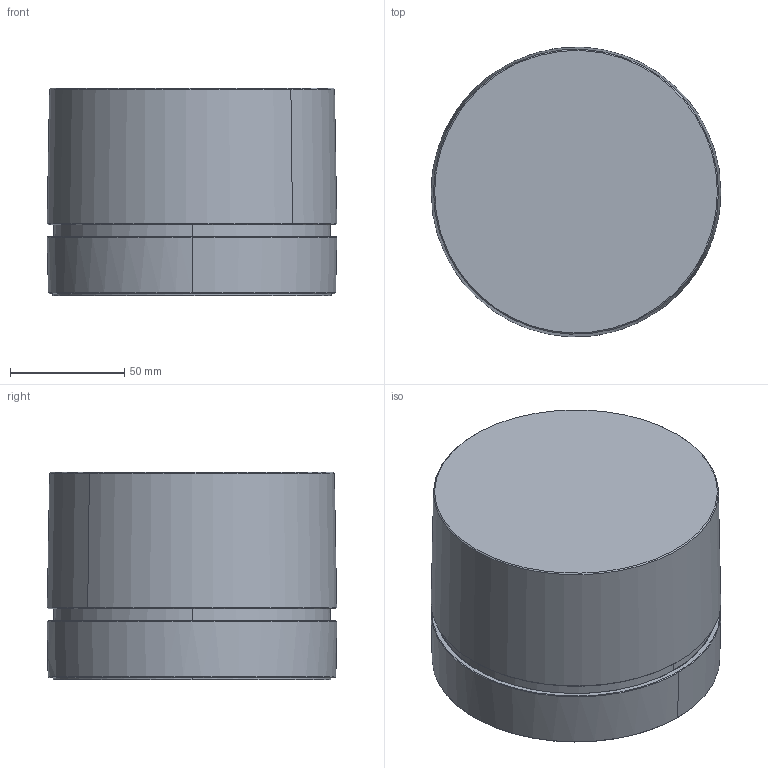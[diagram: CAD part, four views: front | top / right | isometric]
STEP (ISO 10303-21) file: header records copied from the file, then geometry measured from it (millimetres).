
FILE_DESCRIPTION(/* description */ (''),/* implementation_level */ '2;1');
FILE_NAME(/* name */ 'SEM.000217',/* time_stamp */ '2023-03-03T11:08:47+01:00',/* author */ (''),/* organization */ (''),/* preprocessor_version */ 'ST-DEVELOPER v16.5',/* originating_system */ 'Rhino 7.27',/* authorisation */ '');
FILE_SCHEMA (('CONFIG_CONTROL_DESIGN'));
Length unit declared in the file: millimetre
Products named in the file (2): Document; MIN.005480
Assembly tree (1 placements, depth 2):
  Document
    MIN.005480
Bounding box: 126.99 x 126.99 x 91.1 mm (x, y, z)
Volume: 179456.9 mm3; surface area: 162571 mm2
Topology: 4 solids, 5 shells, 77 faces, 169 edges, 102 vertices
Faces by surface type: bspline 43, plane 19, cylinder 15
Entity records: 2618 total; most frequent: CARTESIAN_POINT 1307, ORIENTED_EDGE 322, EDGE_CURVE 169, VERTEX_POINT 102, EDGE_LOOP 84, ADVANCED_FACE 77, FACE_OUTER_BOUND 77, B_SPLINE_CURVE_WITH_KNOTS 54
